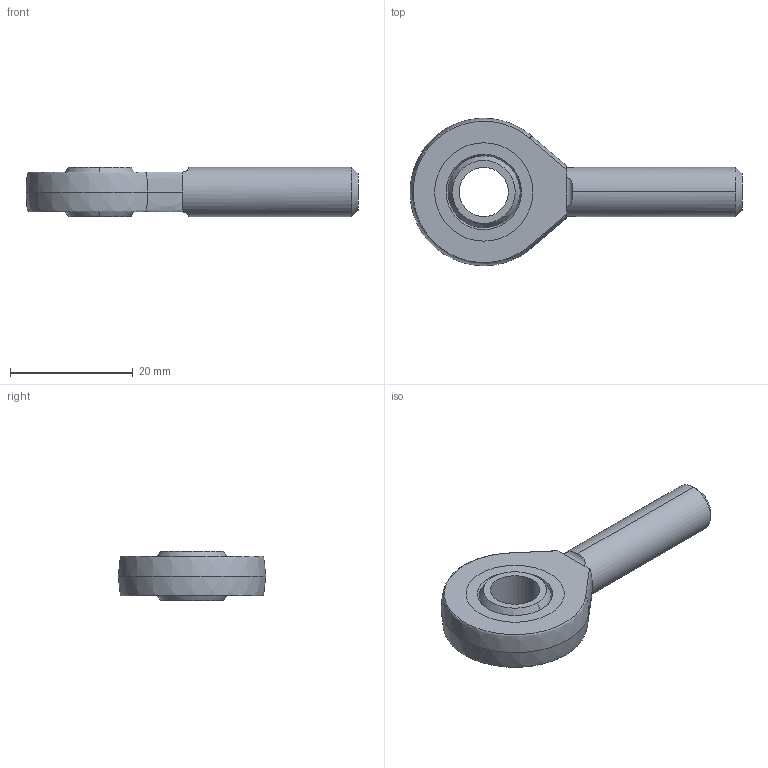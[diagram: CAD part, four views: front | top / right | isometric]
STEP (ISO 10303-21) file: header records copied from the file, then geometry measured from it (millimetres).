
FILE_DESCRIPTION (( 'STEP AP214' ), '1' );
FILE_NAME ('HL-3-003 25-50kg.STEP', '2023-06-02T14:43:04', ( '' ), ( '' ), 'SwSTEP 2.0', 'SolidWorks 2022', '' );
FILE_SCHEMA (( 'AUTOMOTIVE_DESIGN' ));
Length unit declared in the file: millimetre
Products named in the file (4): HL-3-003 25-50kg Rod end part3; HL-3-003 25-50kg Rod end part2; HL-3-003 25-50kg; HL-3-003 25-50kg Rod end
Assembly tree (3 placements, depth 2):
  HL-3-003 25-50kg
    HL-3-003 25-50kg Rod end
    HL-3-003 25-50kg Rod end part2
    HL-3-003 25-50kg Rod end part3
Bounding box: 54 x 24 x 8 mm (x, y, z)
Volume: 4187.3 mm3; surface area: 3385.3 mm2
Topology: 3 solids, 3 shells, 35 faces, 89 edges, 56 vertices
Faces by surface type: cylinder 10, plane 9, cone 6, bspline 6, sphere 4
Entity records: 1578 total; most frequent: CARTESIAN_POINT 643, DIRECTION 166, ORIENTED_EDGE 158, EDGE_CURVE 79, AXIS2_PLACEMENT_3D 73, VERTEX_POINT 50, EDGE_LOOP 41, CIRCLE 38
